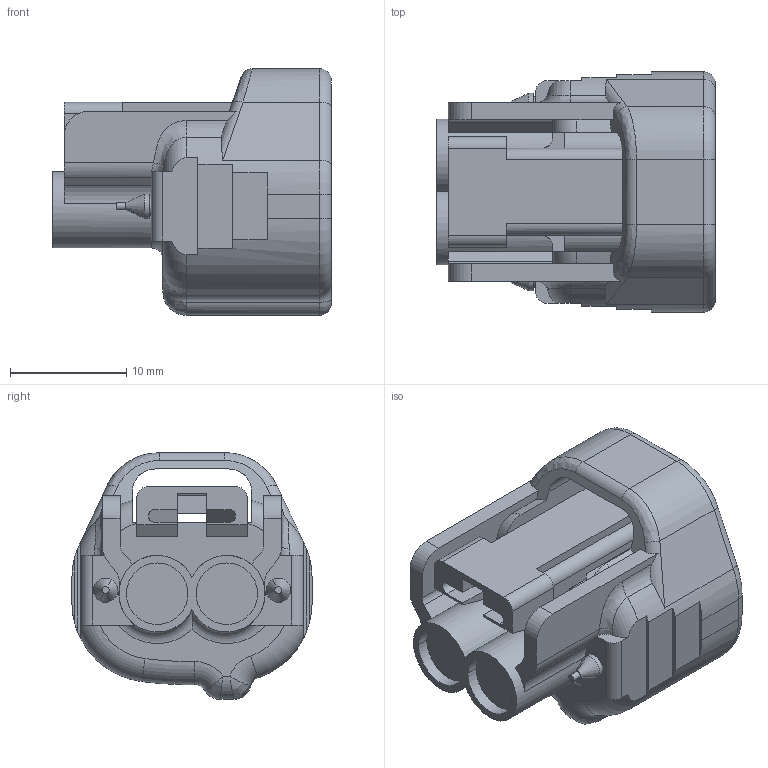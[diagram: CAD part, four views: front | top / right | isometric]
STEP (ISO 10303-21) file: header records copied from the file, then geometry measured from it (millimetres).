
FILE_DESCRIPTION(('CATIA V5 STEP Exchange'),'2;1');
FILE_NAME('N:\C-DAM_MyDesk\ENV\900093\6189-0249.stp','2013-07-25T00:31:50+00:00',('none'),('none'),'CATIA Version 5 Release 20 SP 4 (IN-10)','CATIA V5 STEP AP203','none');
FILE_SCHEMA(('CONFIG_CONTROL_DESIGN'));
Length unit declared in the file: millimetre
Products named in the file (1): 6189-0249
Bounding box: 24 x 20.7 x 21.25 mm (x, y, z)
Volume: 3488.3 mm3; surface area: 3814.7 mm2
Topology: 1 solids, 1 shells, 213 faces, 578 edges, 371 vertices
Faces by surface type: plane 99, cylinder 75, torus 21, bspline 12, cone 4, revolution 2
Entity records: 7548 total; most frequent: CARTESIAN_POINT 2481, ORIENTED_EDGE 1152, DIRECTION 834, EDGE_CURVE 576, VERTEX_POINT 371, AXIS2_PLACEMENT_3D 350, VECTOR 318, LINE 318
